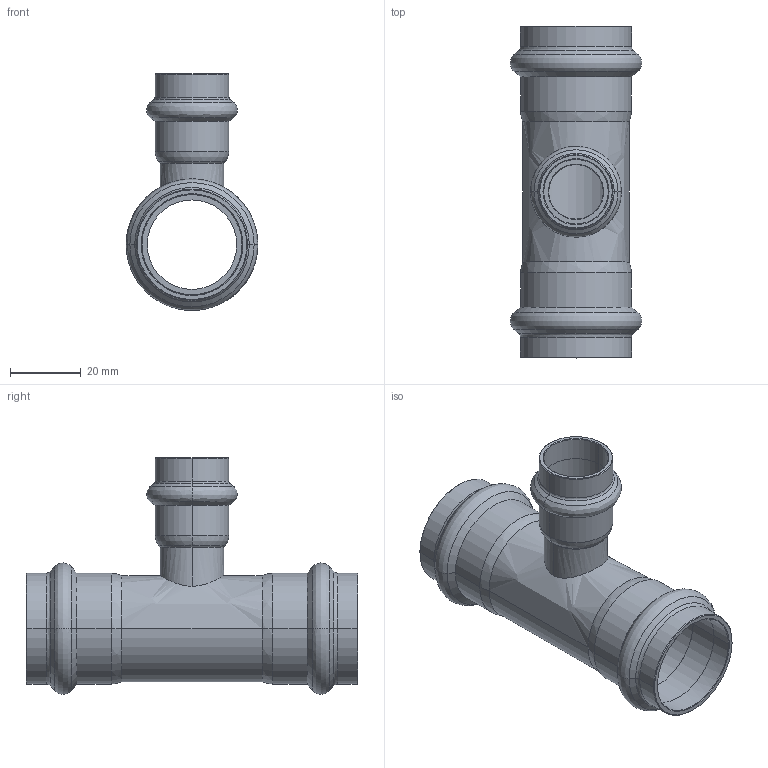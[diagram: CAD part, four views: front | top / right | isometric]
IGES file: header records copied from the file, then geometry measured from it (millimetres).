
Start section: Elysium IGES Interface
Global section: file name: C:\Users\Wallenburg\Desktop\3d modellen sudo\S-Pr VP\SP6130RV\6130RVW281828.igs; native system: CoCreate Modeling 17.00A  17-Jun-2010; preprocessor: CoCreate IGES_3D V2.2; author: Unknown; organization: Unknown; date: 20130117.133332; units: millimetre
Bounding box: 37.2 x 93.81 x 66.95 mm (x, y, z)
Volume: 19570.4 mm3; surface area: 22769.8 mm2
Topology: 1 solids, 1 shells, 124 faces, 260 edges, 146 vertices
Faces by surface type: bspline 124
